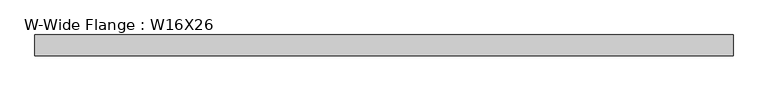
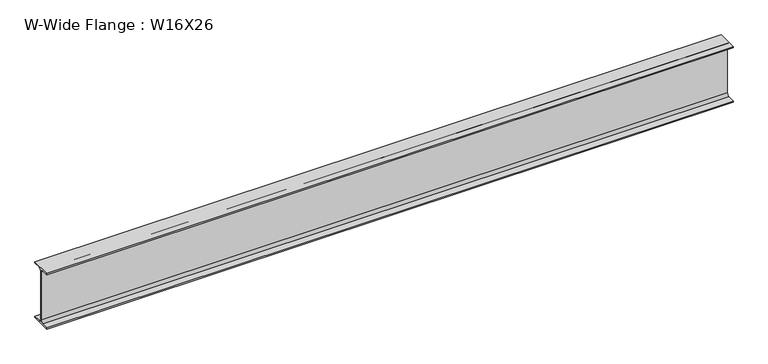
"""IFC4 building model written with IfcOpenShell, lengths in millimetres: beam geometry, W-Wide Flange : W16X26."""

from ifc_helpers import new_model, si_unit, point, frame, frame_2d, origin, place, context, project, spatial, polyline, circle_curve, trimmed, segment, composite_curve, outline, extrude, source, transform, mapped, element, save


def w_wide_flange_w16x26_46cae3be(model_context):
    return source(origin(), model_context, "Body", "SweptSolid", [
        extrude(outline(composite_curve([segment(polyline([(69.85, -190.5496094), (69.85, -199.2808594), (-69.85, -199.2808594), (-69.85, -190.5496094), (-21.43125, -190.5496094)]), True, "CONTINUOUS"), segment(trimmed(circle_curve(frame_2d((-21.43125, -172.2933594)), 18.25625), [point((-21.43125, -190.5496094))], [point((-3.175, -172.2933594))], True, "CARTESIAN"), True, "CONTINUOUS"), segment(polyline([(-3.175, -172.2933594), (-3.175, 172.2933594)]), True, "CONTINUOUS"), segment(trimmed(circle_curve(frame_2d((-21.43125, 172.2933594)), 18.25625), [point((-3.175, 172.2933594))], [point((-21.43125, 190.5496094))], True, "CARTESIAN"), True, "CONTINUOUS"), segment(polyline([(-21.43125, 190.5496094), (-69.85, 190.5496094), (-69.85, 199.2808594), (69.85, 199.2808594), (69.85, 190.5496094), (21.43125, 190.5496094)]), True, "CONTINUOUS"), segment(trimmed(circle_curve(frame_2d((21.43125, 172.2933594)), 18.25625), [point((21.43125, 190.5496094))], [point((3.175, 172.2933594))], True, "CARTESIAN"), True, "CONTINUOUS"), segment(polyline([(3.175, 172.2933594), (3.175, -172.2933594)]), True, "CONTINUOUS"), segment(trimmed(circle_curve(frame_2d((21.43125, -172.2933594)), 18.25625), [point((3.175, -172.2933594))], [point((21.43125, -190.5496094))], True, "CARTESIAN"), True, "CONTINUOUS"), segment(polyline([(21.43125, -190.5496094), (69.85, -190.5496094)]), True, "CONTINUOUS")], self_intersect=False)), frame((-2328.4160156, 0.0, 0.0), z_axis=(1.0, 0.0, 0.0), x_axis=(0.0, 1.0, 0.0)), (0.0, 0.0, 1.0), 4656.8320312),
    ])


if __name__ == "__main__":
    model = new_model("IFC4")
    model_context = context("Model", 3, world=origin())
    ifc_project = project(units=[si_unit("LENGTHUNIT", "METRE", prefix="MILLI")], contexts=[model_context])
    site = spatial("IfcSite", under=ifc_project)
    building = spatial("IfcBuilding", under=site)
    placement = place(None, origin())
    w_wide_flange_w16x26_shape = w_wide_flange_w16x26_46cae3be(model_context)
    element("IfcBeam", 1, ObjectType="W-Wide Flange : W16X26", at=placement, inside=building, context=model_context, shape_type="MappedRepresentation", body=[
        mapped(w_wide_flange_w16x26_shape, transform((0.0, 0.0, 0.0), x_axis=(1.0, 0.0, 0.0), y_axis=(0.0, 1.0, 0.0), z_axis=(0.0, 0.0, 1.0))),
    ])
    save(model, "model.ifc")
